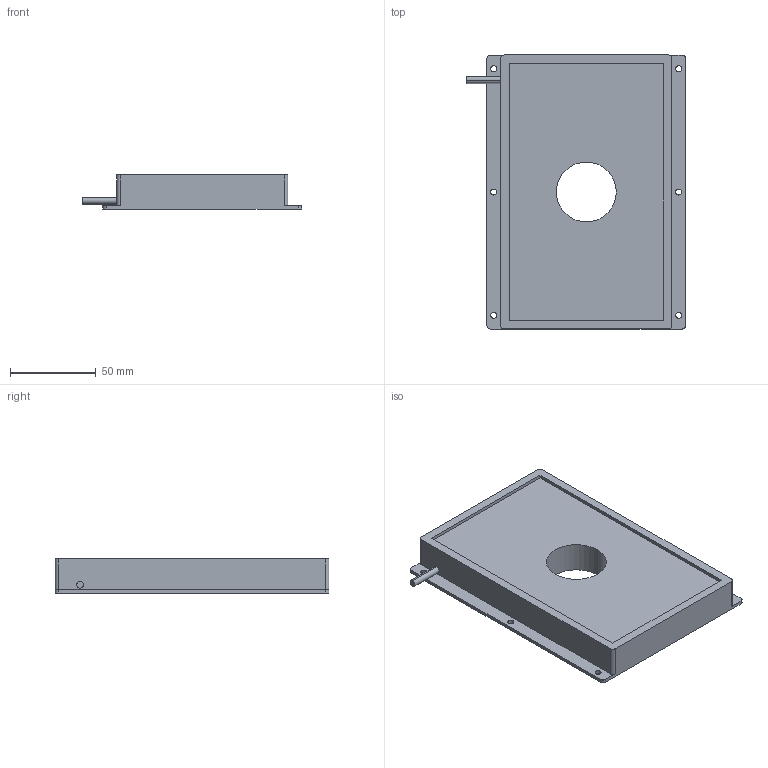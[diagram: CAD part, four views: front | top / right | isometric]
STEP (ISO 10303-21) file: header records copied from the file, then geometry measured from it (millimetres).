
FILE_DESCRIPTION (( 'STEP AP203' ), '1' );
FILE_NAME ('ZBO160100-W.STEP', '2021-10-28T09:16:06', ( 'Windows 蚚誧' ), ( 'Microsoft' ), 'SwSTEP 2.0', 'SolidWorks 2016', '' );
FILE_SCHEMA (( 'CONFIG_CONTROL_DESIGN' ));
Length unit declared in the file: millimetre
Products named in the file (1): ZBO160100-W
Bounding box: 128 x 160 x 20 mm (x, y, z)
Volume: 280869.2 mm3; surface area: 48791.3 mm2
Topology: 1 solids, 1 shells, 40 faces, 108 edges, 72 vertices
Faces by surface type: cylinder 24, plane 16
Entity records: 1385 total; most frequent: DIRECTION 238, CARTESIAN_POINT 221, ORIENTED_EDGE 216, EDGE_CURVE 108, AXIS2_PLACEMENT_3D 89, VERTEX_POINT 72, VECTOR 60, LINE 60
